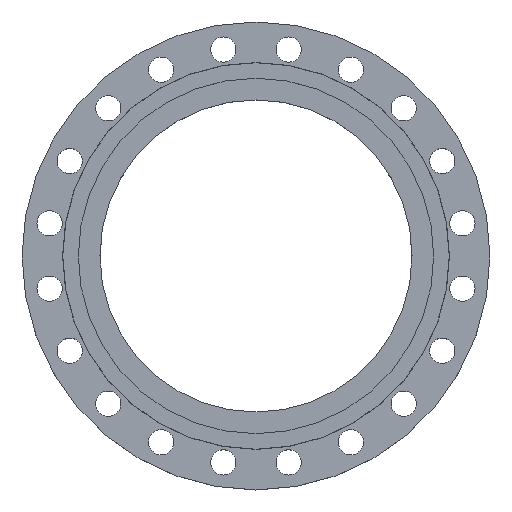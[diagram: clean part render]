
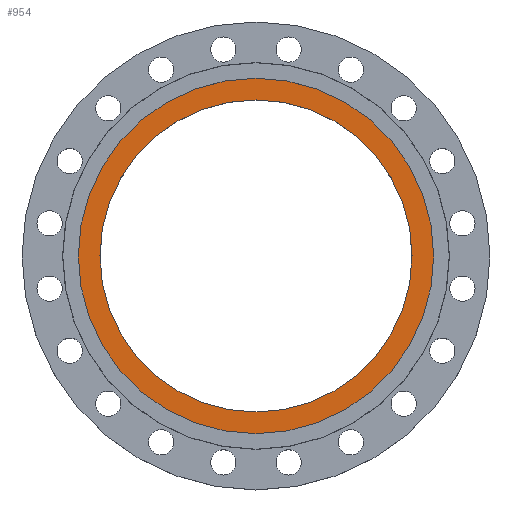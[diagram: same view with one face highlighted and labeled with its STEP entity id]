
A CAD part, top view. The second image highlights one B-rep face of the part: STEP entity #954.
In plain terms, the highlighted planar face has unit normal (0, 0, 1).
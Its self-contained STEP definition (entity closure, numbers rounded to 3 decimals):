
#89 = DIRECTION ( 'NONE',  ( -1., 0., 0. ) ) ;
#91 = DIRECTION ( 'NONE',  ( 0., 0., -1. ) ) ;
#92 = CARTESIAN_POINT ( 'NONE',  ( 0., 0., -5. ) ) ;
#258 = DIRECTION ( 'NONE',  ( -1., 0., 0. ) ) ;
#259 = DIRECTION ( 'NONE',  ( 0., 0., -1. ) ) ;
#260 = CARTESIAN_POINT ( 'NONE',  ( 0., 0., -5. ) ) ;
#314 = AXIS2_PLACEMENT_3D ( 'NONE', #609, #608, #607 ) ;
#402 = CARTESIAN_POINT ( 'NONE',  ( -296.752, 0., -5. ) ) ;
#423 = EDGE_CURVE ( 'NONE', #1788, #1357, #872, .T. ) ;
#467 = CARTESIAN_POINT ( 'NONE',  ( -338., 0., -5. ) ) ;
#512 = CARTESIAN_POINT ( 'NONE',  ( 338., 0., -5. ) ) ;
#607 = DIRECTION ( 'NONE',  ( 1., 0., 0. ) ) ;
#608 = DIRECTION ( 'NONE',  ( 0., 0., 1. ) ) ;
#609 = CARTESIAN_POINT ( 'NONE',  ( 338., 0., -5. ) ) ;
#610 = PLANE ( 'NONE',  #314 ) ;
#613 = FACE_OUTER_BOUND ( 'NONE', #1773, .T. ) ;
#614 = FACE_BOUND ( 'NONE', #1282, .T. ) ;
#695 = EDGE_CURVE ( 'NONE', #1357, #1788, #1483, .T. ) ;
#768 = DIRECTION ( 'NONE',  ( 1., 0., 0. ) ) ;
#769 = DIRECTION ( 'NONE',  ( 0., 0., 1. ) ) ;
#771 = CARTESIAN_POINT ( 'NONE',  ( 0., 0., -5. ) ) ;
#872 = CIRCLE ( 'NONE', #874, 296.752 ) ;
#874 = AXIS2_PLACEMENT_3D ( 'NONE', #882, #880, #879 ) ;
#879 = DIRECTION ( 'NONE',  ( 1., 0., 0. ) ) ;
#880 = DIRECTION ( 'NONE',  ( 0., 0., 1. ) ) ;
#882 = CARTESIAN_POINT ( 'NONE',  ( 0., 0., -5. ) ) ;
#954 = ADVANCED_FACE ( 'NONE', ( #614, #613 ), #610, .T. ) ;
#1077 = VERTEX_POINT ( 'NONE', #512 ) ;
#1135 = VERTEX_POINT ( 'NONE', #467 ) ;
#1282 = EDGE_LOOP ( 'NONE', ( #1340, #1339 ) ) ;
#1336 = ORIENTED_EDGE ( 'NONE', *, *, #1701, .F. ) ;
#1338 = ORIENTED_EDGE ( 'NONE', *, *, #1536, .F. ) ;
#1339 = ORIENTED_EDGE ( 'NONE', *, *, #695, .F. ) ;
#1340 = ORIENTED_EDGE ( 'NONE', *, *, #423, .F. ) ;
#1357 = VERTEX_POINT ( 'NONE', #402 ) ;
#1483 = CIRCLE ( 'NONE', #1485, 296.752 ) ;
#1485 = AXIS2_PLACEMENT_3D ( 'NONE', #771, #769, #768 ) ;
#1536 = EDGE_CURVE ( 'NONE', #1135, #1077, #1585, .T. ) ;
#1585 = CIRCLE ( 'NONE', #1592, 338. ) ;
#1592 = AXIS2_PLACEMENT_3D ( 'NONE', #260, #259, #258 ) ;
#1604 = CARTESIAN_POINT ( 'NONE',  ( 296.752, 0., -5. ) ) ;
#1701 = EDGE_CURVE ( 'NONE', #1077, #1135, #1717, .T. ) ;
#1717 = CIRCLE ( 'NONE', #1726, 338. ) ;
#1726 = AXIS2_PLACEMENT_3D ( 'NONE', #92, #91, #89 ) ;
#1773 = EDGE_LOOP ( 'NONE', ( #1338, #1336 ) ) ;
#1788 = VERTEX_POINT ( 'NONE', #1604 ) ;
